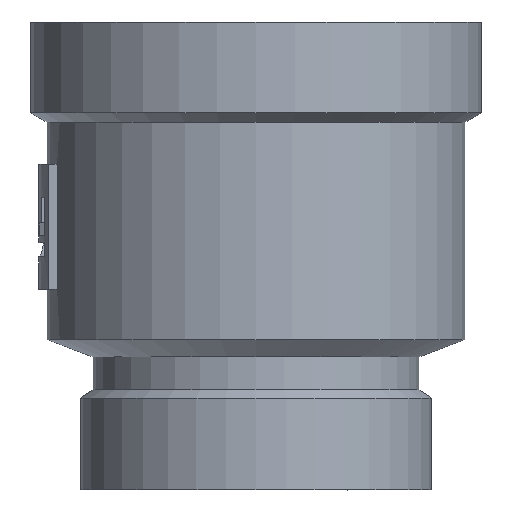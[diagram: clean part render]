
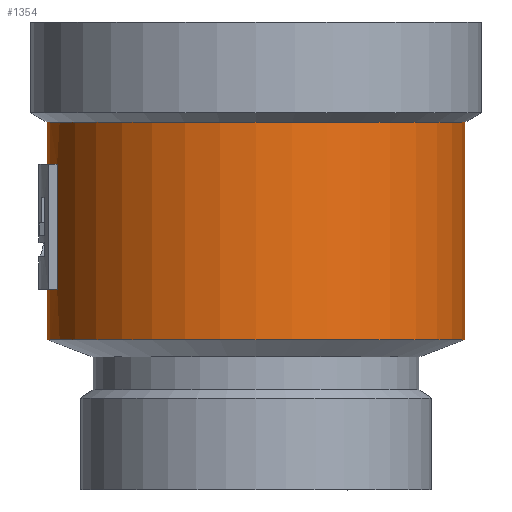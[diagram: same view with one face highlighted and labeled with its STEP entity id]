
A CAD part, front view. The second image highlights one B-rep face of the part: STEP entity #1354.
In plain terms, the highlighted cylindrical face has radius 12.5 mm (diameter 25 mm), a full revolution.
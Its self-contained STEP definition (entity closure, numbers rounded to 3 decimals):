
#142=FACE_BOUND('',#258,.T.);
#174=FACE_OUTER_BOUND('',#257,.T.);
#257=EDGE_LOOP('',(#980,#981,#982,#983,#984,#985));
#258=EDGE_LOOP('',(#986,#987,#988,#989));
#340=CIRCLE('',#1470,12.5);
#341=CIRCLE('',#1473,12.5);
#342=CIRCLE('',#1476,12.5);
#343=CIRCLE('',#1477,12.5);
#344=CIRCLE('',#1478,12.5);
#345=CIRCLE('',#1479,12.5);
#411=LINE('',#2163,#483);
#413=LINE('',#2169,#485);
#414=LINE('',#2176,#486);
#483=VECTOR('',#1668,10.);
#485=VECTOR('',#1676,10.);
#486=VECTOR('',#1683,12.5);
#562=VERTEX_POINT('',#2155);
#563=VERTEX_POINT('',#2157);
#564=VERTEX_POINT('',#2161);
#565=VERTEX_POINT('',#2165);
#566=VERTEX_POINT('',#2171);
#567=VERTEX_POINT('',#2172);
#568=VERTEX_POINT('',#2175);
#569=VERTEX_POINT('',#2177);
#719=EDGE_CURVE('',#563,#562,#340,.T.);
#722=EDGE_CURVE('',#562,#564,#411,.T.);
#724=EDGE_CURVE('',#564,#565,#341,.T.);
#725=EDGE_CURVE('',#565,#563,#413,.T.);
#726=EDGE_CURVE('',#566,#567,#342,.T.);
#727=EDGE_CURVE('',#567,#566,#343,.T.);
#728=EDGE_CURVE('',#567,#568,#414,.T.);
#729=EDGE_CURVE('',#568,#569,#344,.T.);
#730=EDGE_CURVE('',#569,#568,#345,.T.);
#980=ORIENTED_EDGE('',*,*,#726,.F.);
#981=ORIENTED_EDGE('',*,*,#727,.F.);
#982=ORIENTED_EDGE('',*,*,#728,.T.);
#983=ORIENTED_EDGE('',*,*,#729,.T.);
#984=ORIENTED_EDGE('',*,*,#730,.T.);
#985=ORIENTED_EDGE('',*,*,#728,.F.);
#986=ORIENTED_EDGE('',*,*,#719,.T.);
#987=ORIENTED_EDGE('',*,*,#722,.T.);
#988=ORIENTED_EDGE('',*,*,#724,.T.);
#989=ORIENTED_EDGE('',*,*,#725,.T.);
#1291=CYLINDRICAL_SURFACE('',#1475,12.5);
#1354=ADVANCED_FACE('',(#174,#142),#1291,.T.);
#1470=AXIS2_PLACEMENT_3D('',#2158,#1662,#1663);
#1473=AXIS2_PLACEMENT_3D('',#2167,#1672,#1673);
#1475=AXIS2_PLACEMENT_3D('',#2170,#1677,#1678);
#1476=AXIS2_PLACEMENT_3D('',#2173,#1679,#1680);
#1477=AXIS2_PLACEMENT_3D('',#2174,#1681,#1682);
#1478=AXIS2_PLACEMENT_3D('',#2178,#1684,#1685);
#1479=AXIS2_PLACEMENT_3D('',#2179,#1686,#1687);
#1662=DIRECTION('center_axis',(0.,0.,1.));
#1663=DIRECTION('ref_axis',(0.,-1.,0.));
#1668=DIRECTION('',(0.,0.,-1.));
#1672=DIRECTION('center_axis',(0.,0.,-1.));
#1673=DIRECTION('ref_axis',(0.,-1.,0.));
#1676=DIRECTION('',(0.,0.,1.));
#1677=DIRECTION('center_axis',(0.,0.,1.));
#1678=DIRECTION('ref_axis',(0.,-1.,0.));
#1679=DIRECTION('center_axis',(0.,0.,1.));
#1680=DIRECTION('ref_axis',(1.,0.,0.));
#1681=DIRECTION('center_axis',(0.,0.,1.));
#1682=DIRECTION('ref_axis',(1.,0.,0.));
#1683=DIRECTION('',(0.,0.,-1.));
#1684=DIRECTION('center_axis',(0.,0.,1.));
#1685=DIRECTION('ref_axis',(1.,0.,0.));
#1686=DIRECTION('center_axis',(0.,0.,1.));
#1687=DIRECTION('ref_axis',(1.,0.,0.));
#2155=CARTESIAN_POINT('',(-11.896,-3.838,20.366));
#2157=CARTESIAN_POINT('',(-11.952,3.662,20.366));
#2158=CARTESIAN_POINT('Origin',(0.,0.,20.366));
#2161=CARTESIAN_POINT('',(-11.896,-3.838,12.866));
#2163=CARTESIAN_POINT('',(-11.896,-3.838,16.366));
#2165=CARTESIAN_POINT('',(-11.952,3.662,12.866));
#2167=CARTESIAN_POINT('Origin',(0.,0.,12.866));
#2169=CARTESIAN_POINT('',(-11.952,3.662,16.366));
#2170=CARTESIAN_POINT('Origin',(0.,0.,16.366));
#2171=CARTESIAN_POINT('',(0.,-12.5,22.866));
#2172=CARTESIAN_POINT('',(0.,12.5,22.866));
#2173=CARTESIAN_POINT('Origin',(0.,0.,22.866));
#2174=CARTESIAN_POINT('Origin',(0.,0.,22.866));
#2175=CARTESIAN_POINT('',(0.,12.5,9.866));
#2176=CARTESIAN_POINT('',(0.,12.5,16.366));
#2177=CARTESIAN_POINT('',(0.,-12.5,9.866));
#2178=CARTESIAN_POINT('Origin',(0.,0.,9.866));
#2179=CARTESIAN_POINT('Origin',(0.,0.,9.866));
